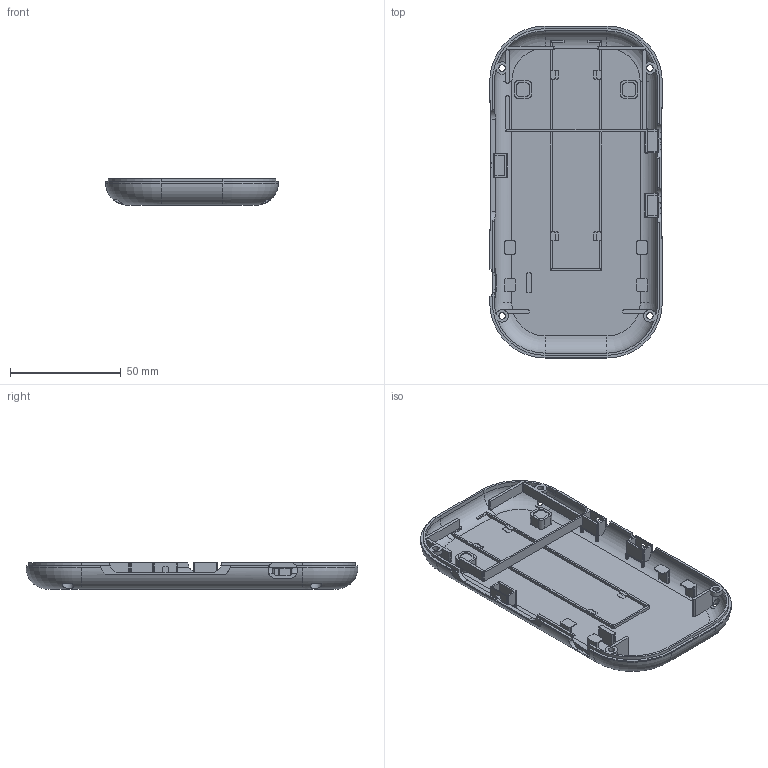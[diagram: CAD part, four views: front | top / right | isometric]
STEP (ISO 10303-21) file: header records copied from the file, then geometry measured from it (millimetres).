
FILE_DESCRIPTION(('Open CASCADE Model'),'2;1');
FILE_NAME('C27_02_Back_Shell_Chalk_Unchanged','2026-09-09T13:54:17',( 'Author'),('Open CASCADE'),'Open CASCADE STEP processor 7.9', 'build123d','Unknown');
FILE_SCHEMA(('AUTOMOTIVE_DESIGN { 1 0 10303 214 1 1 1 1 }'));
Length unit declared in the file: millimetre
Products named in the file (2): C27_02_Back_Shell_Chalk_Unchanged
Assembly tree (1 placements, depth 2):
  C27_02_Back_Shell_Chalk_Unchanged
    C27_02_Back_Shell_Chalk_Unchanged
Bounding box: 78 x 150 x 12 mm (x, y, z)
Volume: 29205.6 mm3; surface area: 33350 mm2
Topology: 1 solids, 1 shells, 1194 faces, 3430 edges, 2278 vertices
Faces by surface type: plane 549, bspline 352, cylinder 285, torus 8
Full cylindrical faces by diameter (mm): 2.9 x8
Entity records: 95615 total; most frequent: CARTESIAN_POINT 32936, DIRECTION 9609, ORIENTED_EDGE 6860, PCURVE 6860, DEFINITIONAL_REPRESENTATION 6860, LINE 6298, VECTOR 6298, EDGE_CURVE 3430
